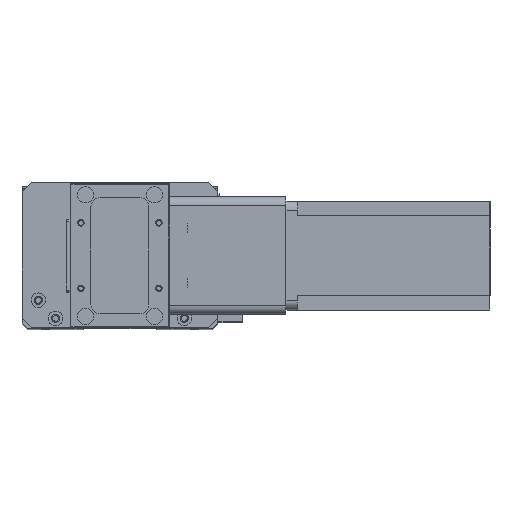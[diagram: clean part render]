
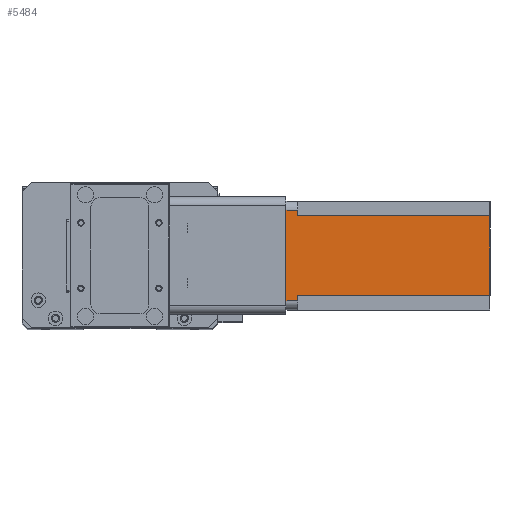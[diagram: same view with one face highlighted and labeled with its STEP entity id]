
A CAD part, top view. The second image highlights one B-rep face of the part: STEP entity #5484.
In plain terms, the highlighted planar face has unit normal (0, 0, 1) as drawn and (0, 1, 0) by its records, which use the part's own axes.
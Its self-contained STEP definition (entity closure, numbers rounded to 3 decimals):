
#273 = EDGE_CURVE ( 'NONE', #9774, #2729, #16004, .T. ) ;
#437 = CARTESIAN_POINT ( 'NONE',  ( 52., 60., -6.5 ) ) ;
#1247 = CARTESIAN_POINT ( 'NONE',  ( 8., 60., -6.5 ) ) ;
#1605 = CARTESIAN_POINT ( 'NONE',  ( 5., 60., -6.5 ) ) ;
#2729 = VERTEX_POINT ( 'NONE', #23957 ) ;
#2735 = EDGE_LOOP ( 'NONE', ( #4300, #22253, #21284, #16463, #7323, #4383, #11123, #12217 ) ) ;
#3631 = DIRECTION ( 'NONE',  ( 0., 0., 1. ) ) ;
#4300 = ORIENTED_EDGE ( 'NONE', *, *, #16791, .F. ) ;
#4383 = ORIENTED_EDGE ( 'NONE', *, *, #21549, .F. ) ;
#5300 = DIRECTION ( 'NONE',  ( 0., 1., 0. ) ) ;
#5390 = LINE ( 'NONE', #437, #15893 ) ;
#5484 = ADVANCED_FACE ( 'NONE', ( #9889 ), #20981, .T. ) ;
#6441 = CARTESIAN_POINT ( 'NONE',  ( 52., 60., -112.5 ) ) ;
#7077 = DIRECTION ( 'NONE',  ( 0., 0., 1. ) ) ;
#7160 = VECTOR ( 'NONE', #16864, 1000. ) ;
#7181 = DIRECTION ( 'NONE',  ( -1., 0., 0. ) ) ;
#7323 = ORIENTED_EDGE ( 'NONE', *, *, #17390, .T. ) ;
#7403 = CARTESIAN_POINT ( 'NONE',  ( 8., 60., -6.5 ) ) ;
#7693 = VERTEX_POINT ( 'NONE', #18267 ) ;
#8651 = VECTOR ( 'NONE', #7077, 1000. ) ;
#9051 = CARTESIAN_POINT ( 'NONE',  ( 55., 60., -112.5 ) ) ;
#9307 = VECTOR ( 'NONE', #7181, 1000. ) ;
#9344 = CARTESIAN_POINT ( 'NONE',  ( 8., 60., -112.5 ) ) ;
#9617 = EDGE_CURVE ( 'NONE', #7693, #10934, #10580, .T. ) ;
#9774 = VERTEX_POINT ( 'NONE', #1605 ) ;
#9889 = FACE_OUTER_BOUND ( 'NONE', #2735, .T. ) ;
#10164 = CARTESIAN_POINT ( 'NONE',  ( 52., 60., -6.5 ) ) ;
#10580 = LINE ( 'NONE', #9051, #19203 ) ;
#10767 = VECTOR ( 'NONE', #3631, 1000. ) ;
#10934 = VERTEX_POINT ( 'NONE', #22819 ) ;
#11022 = DIRECTION ( 'NONE',  ( 0., 0., -1. ) ) ;
#11123 = ORIENTED_EDGE ( 'NONE', *, *, #23082, .T. ) ;
#12217 = ORIENTED_EDGE ( 'NONE', *, *, #273, .T. ) ;
#12453 = LINE ( 'NONE', #7403, #17076 ) ;
#13369 = CARTESIAN_POINT ( 'NONE',  ( 5., 60., -112.5 ) ) ;
#13733 = VECTOR ( 'NONE', #23148, 1000. ) ;
#14968 = LINE ( 'NONE', #9344, #13733 ) ;
#14987 = CARTESIAN_POINT ( 'NONE',  ( 52., 60., -112.5 ) ) ;
#15055 = EDGE_CURVE ( 'NONE', #24278, #10934, #5390, .T. ) ;
#15893 = VECTOR ( 'NONE', #18133, 1000. ) ;
#15900 = VERTEX_POINT ( 'NONE', #1247 ) ;
#16004 = LINE ( 'NONE', #13369, #10767 ) ;
#16463 = ORIENTED_EDGE ( 'NONE', *, *, #17916, .F. ) ;
#16612 = VERTEX_POINT ( 'NONE', #6441 ) ;
#16791 = EDGE_CURVE ( 'NONE', #7693, #2729, #22915, .T. ) ;
#16864 = DIRECTION ( 'NONE',  ( -1., 0., 0. ) ) ;
#16950 = CARTESIAN_POINT ( 'NONE',  ( 0., 60., -112.5 ) ) ;
#17076 = VECTOR ( 'NONE', #17233, 1000. ) ;
#17233 = DIRECTION ( 'NONE',  ( -1., 0., 0. ) ) ;
#17390 = EDGE_CURVE ( 'NONE', #16612, #20837, #24452, .T. ) ;
#17916 = EDGE_CURVE ( 'NONE', #16612, #24278, #18516, .T. ) ;
#18133 = DIRECTION ( 'NONE',  ( 1., 0., 0. ) ) ;
#18267 = CARTESIAN_POINT ( 'NONE',  ( 55., 60., 0. ) ) ;
#18516 = LINE ( 'NONE', #14987, #8651 ) ;
#18846 = CARTESIAN_POINT ( 'NONE',  ( 0., 60., 0. ) ) ;
#18981 = CARTESIAN_POINT ( 'NONE',  ( 0., 60., -112.5 ) ) ;
#19097 = DIRECTION ( 'NONE',  ( 0., 0., 1. ) ) ;
#19203 = VECTOR ( 'NONE', #11022, 1000. ) ;
#20837 = VERTEX_POINT ( 'NONE', #24910 ) ;
#20981 = PLANE ( 'NONE',  #22164 ) ;
#21284 = ORIENTED_EDGE ( 'NONE', *, *, #15055, .F. ) ;
#21549 = EDGE_CURVE ( 'NONE', #15900, #20837, #14968, .T. ) ;
#22164 = AXIS2_PLACEMENT_3D ( 'NONE', #16950, #5300, #19097 ) ;
#22253 = ORIENTED_EDGE ( 'NONE', *, *, #9617, .T. ) ;
#22819 = CARTESIAN_POINT ( 'NONE',  ( 55., 60., -6.5 ) ) ;
#22915 = LINE ( 'NONE', #18846, #7160 ) ;
#23082 = EDGE_CURVE ( 'NONE', #15900, #9774, #12453, .T. ) ;
#23148 = DIRECTION ( 'NONE',  ( 0., 0., -1. ) ) ;
#23957 = CARTESIAN_POINT ( 'NONE',  ( 5., 60., 0. ) ) ;
#24278 = VERTEX_POINT ( 'NONE', #10164 ) ;
#24452 = LINE ( 'NONE', #18981, #9307 ) ;
#24910 = CARTESIAN_POINT ( 'NONE',  ( 8., 60., -112.5 ) ) ;
